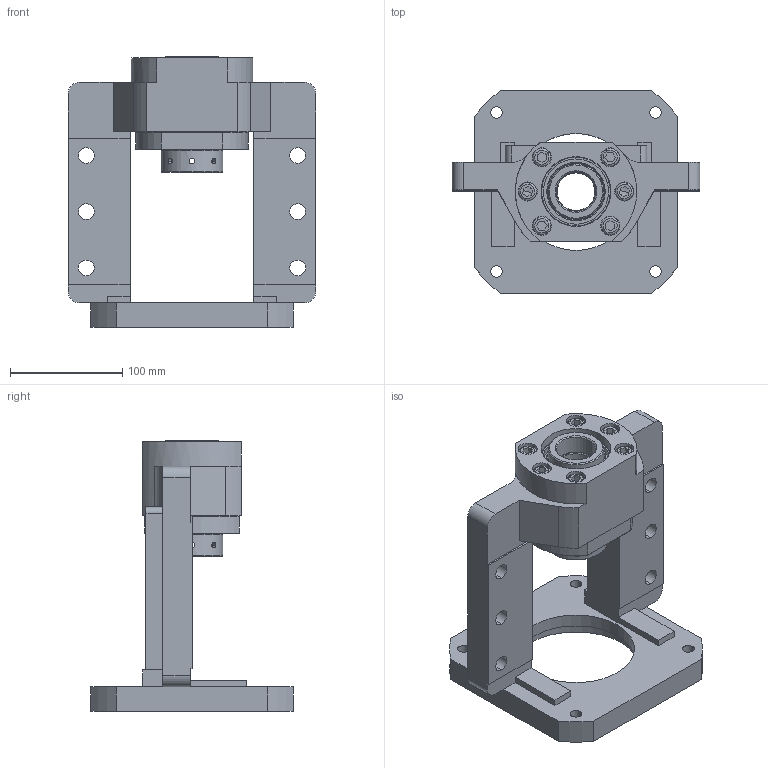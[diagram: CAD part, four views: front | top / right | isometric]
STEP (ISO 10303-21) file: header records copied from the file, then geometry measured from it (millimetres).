
FILE_DESCRIPTION (( 'STEP AP203' ), '1' );
FILE_NAME ('MBCK35L-H²Õ¦X¥ó.STEP', '2025-09-18T05:07:26', ( '' ), ( '' ), 'SwSTEP 2.0', 'SolidWorks 2018', '' );
FILE_SCHEMA (( 'CONFIG_CONTROL_DESIGN' ));
Length unit declared in the file: millimetre
Products named in the file (2): MBCK35L-H組合件
Bounding box: 220 x 180 x 241 mm (x, y, z)
Surface area: 242041.8 mm2 (no closed solid volume)
Topology: 0 solids, 34 shells, 346 faces, 961 edges, 639 vertices
Faces by surface type: cylinder 124, plane 123, cone 68, torus 20, bspline 11
Entity records: 27881 total; most frequent: CARTESIAN_POINT 18937, DIRECTION 1894, ORIENTED_EDGE 1671, EDGE_CURVE 949, AXIS2_PLACEMENT_3D 740, VERTEX_POINT 639, EDGE_LOOP 422, LINE 414
